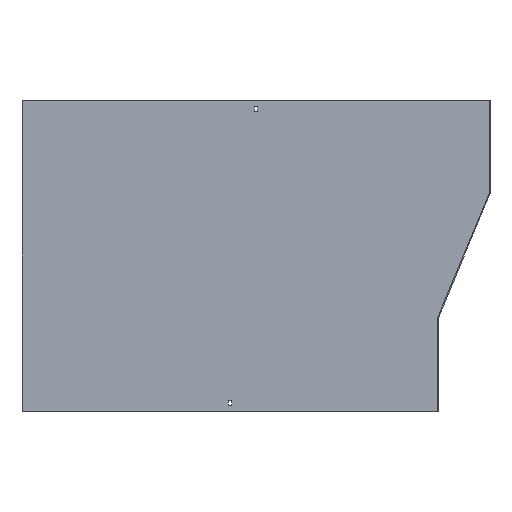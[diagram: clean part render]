
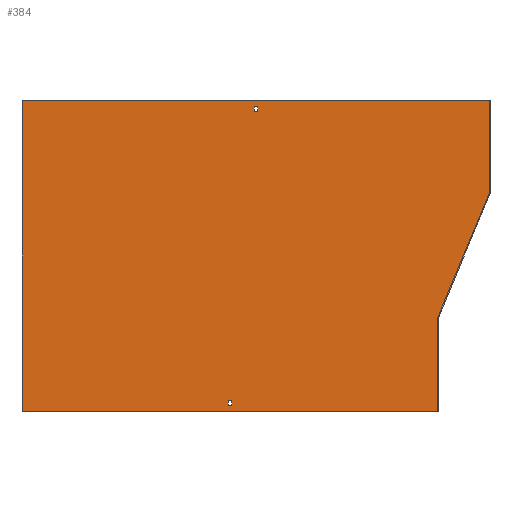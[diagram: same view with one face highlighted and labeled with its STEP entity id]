
A CAD part, front view. The second image highlights one B-rep face of the part: STEP entity #384.
In plain terms, the highlighted planar face has unit normal (0, -1, 0).
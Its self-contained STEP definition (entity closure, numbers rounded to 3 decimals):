
#1 = PLANE ( 'NONE',  #258 ) ;
#5 = LINE ( 'NONE', #448, #628 ) ;
#6 = EDGE_CURVE ( 'NONE', #92, #507, #543, .T. ) ;
#34 = DIRECTION ( 'NONE',  ( 0., 0., -1. ) ) ;
#53 = CARTESIAN_POINT ( 'NONE',  ( -450., -1.5, 0. ) ) ;
#61 = ORIENTED_EDGE ( 'NONE', *, *, #568, .F. ) ;
#62 = VECTOR ( 'NONE', #217, 1000. ) ;
#63 = CARTESIAN_POINT ( 'NONE',  ( -3.25, -1.5, -12. ) ) ;
#71 = EDGE_CURVE ( 'NONE', #607, #603, #669, .T. ) ;
#87 = VERTEX_POINT ( 'NONE', #282 ) ;
#92 = VERTEX_POINT ( 'NONE', #63 ) ;
#106 = LINE ( 'NONE', #323, #439 ) ;
#107 = CARTESIAN_POINT ( 'NONE',  ( -53.25, -1.5, -579. ) ) ;
#112 = VECTOR ( 'NONE', #551, 1000. ) ;
#119 = LINE ( 'NONE', #678, #554 ) ;
#129 = VERTEX_POINT ( 'NONE', #623 ) ;
#134 = ORIENTED_EDGE ( 'NONE', *, *, #396, .F. ) ;
#136 = ORIENTED_EDGE ( 'NONE', *, *, #681, .F. ) ;
#138 = ORIENTED_EDGE ( 'NONE', *, *, #562, .F. ) ;
#141 = VECTOR ( 'NONE', #34, 1000. ) ;
#145 = CARTESIAN_POINT ( 'NONE',  ( -3.25, -1.5, 0. ) ) ;
#149 = LINE ( 'NONE', #419, #273 ) ;
#154 = DIRECTION ( 'NONE',  ( -1., 0., 0. ) ) ;
#158 = LINE ( 'NONE', #378, #178 ) ;
#170 = DIRECTION ( 'NONE',  ( 1., 0., 0. ) ) ;
#177 = VECTOR ( 'NONE', #479, 1000. ) ;
#178 = VECTOR ( 'NONE', #608, 1000. ) ;
#198 = VECTOR ( 'NONE', #154, 1000. ) ;
#201 = VERTEX_POINT ( 'NONE', #243 ) ;
#208 = EDGE_CURVE ( 'NONE', #341, #129, #310, .T. ) ;
#217 = DIRECTION ( 'NONE',  ( 1., 0., 0. ) ) ;
#218 = DIRECTION ( 'NONE',  ( 0., -1., 0. ) ) ;
#232 = ORIENTED_EDGE ( 'NONE', *, *, #426, .F. ) ;
#243 = CARTESIAN_POINT ( 'NONE',  ( 450., -1.5, -179.7 ) ) ;
#249 = CARTESIAN_POINT ( 'NONE',  ( 350., -1.5, -600. ) ) ;
#258 = AXIS2_PLACEMENT_3D ( 'NONE', #379, #218, #371 ) ;
#263 = CARTESIAN_POINT ( 'NONE',  ( -3.25, -1.5, -21. ) ) ;
#265 = CARTESIAN_POINT ( 'NONE',  ( 0., -1.5, -579. ) ) ;
#273 = VECTOR ( 'NONE', #370, 1000. ) ;
#274 = CARTESIAN_POINT ( 'NONE',  ( 0., -1.5, -588. ) ) ;
#282 = CARTESIAN_POINT ( 'NONE',  ( 3.25, -1.5, -12. ) ) ;
#287 = VERTEX_POINT ( 'NONE', #589 ) ;
#305 = CARTESIAN_POINT ( 'NONE',  ( 3.25, -1.5, -21. ) ) ;
#310 = LINE ( 'NONE', #430, #177 ) ;
#314 = VECTOR ( 'NONE', #582, 1000. ) ;
#323 = CARTESIAN_POINT ( 'NONE',  ( -450., -1.5, 0. ) ) ;
#328 = ORIENTED_EDGE ( 'NONE', *, *, #71, .F. ) ;
#333 = LINE ( 'NONE', #622, #141 ) ;
#341 = VERTEX_POINT ( 'NONE', #107 ) ;
#344 = VERTEX_POINT ( 'NONE', #53 ) ;
#351 = LINE ( 'NONE', #686, #314 ) ;
#352 = EDGE_LOOP ( 'NONE', ( #547, #61, #328, #134, #489, #232 ) ) ;
#369 = EDGE_CURVE ( 'NONE', #511, #712, #555, .T. ) ;
#370 = DIRECTION ( 'NONE',  ( 1., 0., 0. ) ) ;
#371 = DIRECTION ( 'NONE',  ( 0., 0., -1. ) ) ;
#378 = CARTESIAN_POINT ( 'NONE',  ( 3.25, -1.5, 0. ) ) ;
#379 = CARTESIAN_POINT ( 'NONE',  ( 0., -1.5, 0. ) ) ;
#384 = ADVANCED_FACE ( 'NONE', ( #671, #440, #491 ), #1, .T. ) ;
#385 = DIRECTION ( 'NONE',  ( -1., 0., 0. ) ) ;
#387 = ORIENTED_EDGE ( 'NONE', *, *, #208, .F. ) ;
#388 = DIRECTION ( 'NONE',  ( 0., 0., 1. ) ) ;
#394 = CARTESIAN_POINT ( 'NONE',  ( 350., -1.5, -419.7 ) ) ;
#396 = EDGE_CURVE ( 'NONE', #418, #607, #5, .T. ) ;
#410 = EDGE_CURVE ( 'NONE', #712, #341, #541, .T. ) ;
#411 = EDGE_LOOP ( 'NONE', ( #688, #656, #138, #136 ) ) ;
#415 = EDGE_CURVE ( 'NONE', #344, #287, #119, .T. ) ;
#418 = VERTEX_POINT ( 'NONE', #394 ) ;
#419 = CARTESIAN_POINT ( 'NONE',  ( 0., -1.5, -21. ) ) ;
#426 = EDGE_CURVE ( 'NONE', #287, #201, #333, .T. ) ;
#430 = CARTESIAN_POINT ( 'NONE',  ( -53.25, -1.5, 0. ) ) ;
#437 = CARTESIAN_POINT ( 'NONE',  ( -46.75, -1.5, -588. ) ) ;
#439 = VECTOR ( 'NONE', #641, 1000. ) ;
#440 = FACE_BOUND ( 'NONE', #411, .T. ) ;
#446 = CARTESIAN_POINT ( 'NONE',  ( -451.5, -1.5, -600. ) ) ;
#448 = CARTESIAN_POINT ( 'NONE',  ( 350., -1.5, -600. ) ) ;
#456 = EDGE_CURVE ( 'NONE', #201, #418, #653, .T. ) ;
#479 = DIRECTION ( 'NONE',  ( 0., 0., -1. ) ) ;
#480 = DIRECTION ( 'NONE',  ( 0., 0., -1. ) ) ;
#488 = CARTESIAN_POINT ( 'NONE',  ( -46.75, -1.5, 0. ) ) ;
#489 = ORIENTED_EDGE ( 'NONE', *, *, #456, .F. ) ;
#491 = FACE_OUTER_BOUND ( 'NONE', #352, .T. ) ;
#507 = VERTEX_POINT ( 'NONE', #263 ) ;
#511 = VERTEX_POINT ( 'NONE', #437 ) ;
#524 = EDGE_CURVE ( 'NONE', #129, #511, #594, .T. ) ;
#541 = LINE ( 'NONE', #265, #198 ) ;
#543 = LINE ( 'NONE', #145, #626 ) ;
#547 = ORIENTED_EDGE ( 'NONE', *, *, #415, .F. ) ;
#551 = DIRECTION ( 'NONE',  ( -0.385, 0., -0.923 ) ) ;
#554 = VECTOR ( 'NONE', #170, 1000. ) ;
#555 = LINE ( 'NONE', #488, #575 ) ;
#562 = EDGE_CURVE ( 'NONE', #676, #87, #158, .T. ) ;
#568 = EDGE_CURVE ( 'NONE', #603, #344, #106, .T. ) ;
#569 = ORIENTED_EDGE ( 'NONE', *, *, #524, .F. ) ;
#572 = EDGE_LOOP ( 'NONE', ( #387, #581, #633, #569 ) ) ;
#575 = VECTOR ( 'NONE', #388, 1000. ) ;
#580 = EDGE_CURVE ( 'NONE', #87, #92, #351, .T. ) ;
#581 = ORIENTED_EDGE ( 'NONE', *, *, #410, .F. ) ;
#582 = DIRECTION ( 'NONE',  ( -1., 0., 0. ) ) ;
#588 = CARTESIAN_POINT ( 'NONE',  ( -46.75, -1.5, -579. ) ) ;
#589 = CARTESIAN_POINT ( 'NONE',  ( 450., -1.5, 0. ) ) ;
#594 = LINE ( 'NONE', #274, #62 ) ;
#598 = CARTESIAN_POINT ( 'NONE',  ( 350.115, -1.5, -419.423 ) ) ;
#599 = DIRECTION ( 'NONE',  ( 0., 0., -1. ) ) ;
#603 = VERTEX_POINT ( 'NONE', #643 ) ;
#607 = VERTEX_POINT ( 'NONE', #249 ) ;
#608 = DIRECTION ( 'NONE',  ( 0., 0., 1. ) ) ;
#622 = CARTESIAN_POINT ( 'NONE',  ( 450., -1.5, -180. ) ) ;
#623 = CARTESIAN_POINT ( 'NONE',  ( -53.25, -1.5, -588. ) ) ;
#626 = VECTOR ( 'NONE', #480, 1000. ) ;
#628 = VECTOR ( 'NONE', #599, 1000. ) ;
#633 = ORIENTED_EDGE ( 'NONE', *, *, #369, .F. ) ;
#641 = DIRECTION ( 'NONE',  ( 0., 0., 1. ) ) ;
#643 = CARTESIAN_POINT ( 'NONE',  ( -450., -1.5, -600. ) ) ;
#653 = LINE ( 'NONE', #598, #112 ) ;
#656 = ORIENTED_EDGE ( 'NONE', *, *, #580, .F. ) ;
#669 = LINE ( 'NONE', #446, #696 ) ;
#671 = FACE_BOUND ( 'NONE', #572, .T. ) ;
#676 = VERTEX_POINT ( 'NONE', #305 ) ;
#678 = CARTESIAN_POINT ( 'NONE',  ( 451.5, -1.5, 0. ) ) ;
#681 = EDGE_CURVE ( 'NONE', #507, #676, #149, .T. ) ;
#686 = CARTESIAN_POINT ( 'NONE',  ( 0., -1.5, -12. ) ) ;
#688 = ORIENTED_EDGE ( 'NONE', *, *, #6, .F. ) ;
#696 = VECTOR ( 'NONE', #385, 1000. ) ;
#712 = VERTEX_POINT ( 'NONE', #588 ) ;
